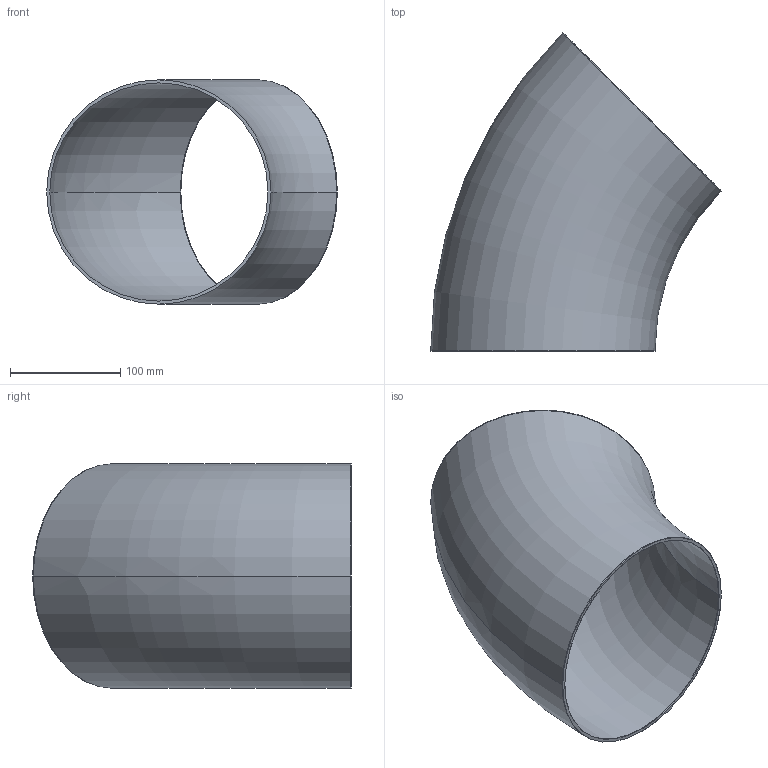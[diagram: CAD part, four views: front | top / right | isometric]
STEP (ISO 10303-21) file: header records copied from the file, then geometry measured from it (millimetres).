
FILE_DESCRIPTION (( 'STEP AP203' ), '1' );
FILE_NAME ('E2WK8.0.STEP', '2018-04-30T18:06:41', ( 'vneprd' ), ( 'Microsoft' ), 'SwSTEP 2.0', 'SolidWorks 2014', '' );
FILE_SCHEMA (( 'CONFIG_CONTROL_DESIGN' ));
Length unit declared in the file: inch
Products named in the file (1): E2WK8.0
Bounding box: 263.25 x 288.67 x 203.2 mm (x, y, z)
Volume: 419987.9 mm3; surface area: 306880.3 mm2
Topology: 1 solids, 1 shells, 14 faces, 32 edges, 20 vertices
Faces by surface type: cylinder 8, torus 4, plane 2
Entity records: 491 total; most frequent: DIRECTION 86, CARTESIAN_POINT 67, ORIENTED_EDGE 64, AXIS2_PLACEMENT_3D 39, EDGE_CURVE 32, CIRCLE 24, VERTEX_POINT 20, EDGE_LOOP 16
